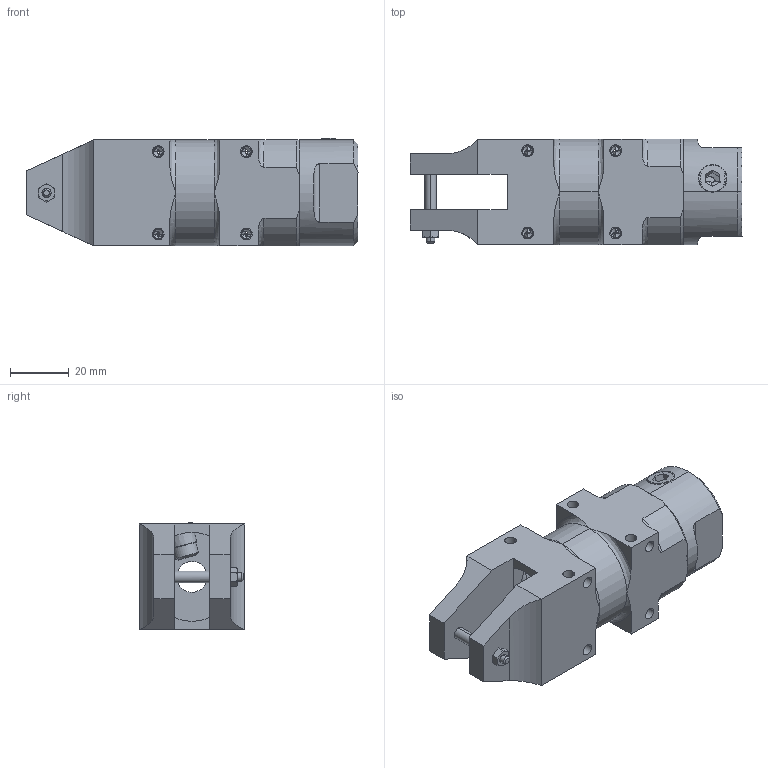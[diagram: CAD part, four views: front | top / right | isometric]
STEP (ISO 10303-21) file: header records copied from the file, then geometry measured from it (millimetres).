
FILE_DESCRIPTION (( 'STEP AP214' ), '1' );
FILE_NAME ('GT-NS10L.STEP', '2019-11-27T09:33:43', ( '微软用户' ), ( '微软中国' ), 'SwSTEP 2.0', 'SolidWorks 2016', '' );
FILE_SCHEMA (( 'AUTOMOTIVE_DESIGN' ));
Length unit declared in the file: millimetre
Products named in the file (1): GT-NS10L
Bounding box: 113 x 36 x 36.6 mm (x, y, z)
Surface area: 20011.6 mm2 (no closed solid volume)
Topology: 0 solids, 6 shells, 279 faces, 755 edges, 454 vertices
Faces by surface type: cylinder 98, plane 86, cone 83, bspline 10, torus 2
Entity records: 16721 total; most frequent: CARTESIAN_POINT 10348, ORIENTED_EDGE 1337, DIRECTION 1200, EDGE_CURVE 719, AXIS2_PLACEMENT_3D 481, VERTEX_POINT 451, EDGE_LOOP 325, FACE_OUTER_BOUND 277
